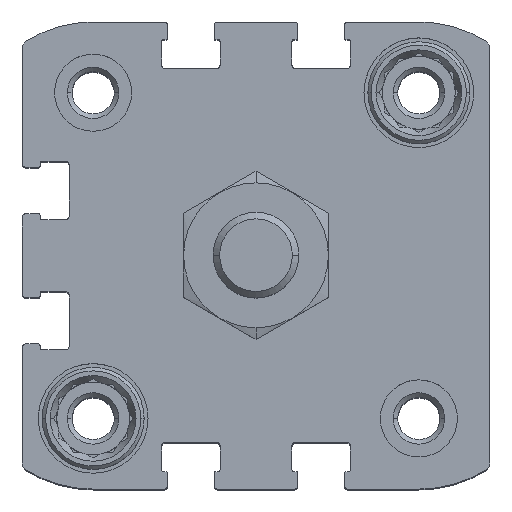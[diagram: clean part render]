
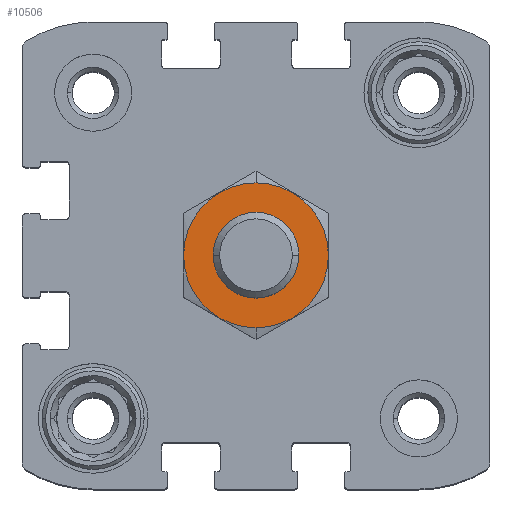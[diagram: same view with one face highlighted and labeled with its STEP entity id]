
A CAD part, top view. The second image highlights one B-rep face of the part: STEP entity #10506.
In plain terms, the highlighted planar face has unit normal (0, 0, 1).
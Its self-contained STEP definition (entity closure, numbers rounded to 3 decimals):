
#336 = CIRCLE ( 'NONE', #7937, 5. ) ;
#683 = DIRECTION ( 'NONE',  ( 0., 0., -1. ) ) ;
#848 = DIRECTION ( 'NONE',  ( 0., 1., 0. ) ) ;
#1328 = VERTEX_POINT ( 'NONE', #7141 ) ;
#2072 = VERTEX_POINT ( 'NONE', #9395 ) ;
#2104 = CIRCLE ( 'NONE', #8563, 5. ) ;
#2913 = ORIENTED_EDGE ( 'NONE', *, *, #8864, .T. ) ;
#3046 = DIRECTION ( 'NONE',  ( 0., 1., 0. ) ) ;
#3553 = EDGE_CURVE ( 'NONE', #2072, #1328, #8396, .T. ) ;
#4359 = ORIENTED_EDGE ( 'NONE', *, *, #5112, .T. ) ;
#4721 = PLANE ( 'NONE',  #10392 ) ;
#4888 = CARTESIAN_POINT ( 'NONE',  ( 0., 0., 15.8 ) ) ;
#5027 = EDGE_LOOP ( 'NONE', ( #5458, #13303 ) ) ;
#5112 = EDGE_CURVE ( 'NONE', #16714, #6899, #336, .T. ) ;
#5458 = ORIENTED_EDGE ( 'NONE', *, *, #13475, .F. ) ;
#6140 = CARTESIAN_POINT ( 'NONE',  ( 0., 0., 15.8 ) ) ;
#6240 = DIRECTION ( 'NONE',  ( 0., 0., -1. ) ) ;
#6274 = CARTESIAN_POINT ( 'NONE',  ( 0., 5., 15.8 ) ) ;
#6899 = VERTEX_POINT ( 'NONE', #6274 ) ;
#7141 = CARTESIAN_POINT ( 'NONE',  ( 0., 8.45, 15.8 ) ) ;
#7937 = AXIS2_PLACEMENT_3D ( 'NONE', #4888, #11722, #848 ) ;
#8370 = CARTESIAN_POINT ( 'NONE',  ( 0., -5., 15.8 ) ) ;
#8396 = CIRCLE ( 'NONE', #12039, 8.45 ) ;
#8563 = AXIS2_PLACEMENT_3D ( 'NONE', #12815, #6240, #15787 ) ;
#8676 = DIRECTION ( 'NONE',  ( 0., 0., -1. ) ) ;
#8864 = EDGE_CURVE ( 'NONE', #6899, #16714, #2104, .T. ) ;
#9395 = CARTESIAN_POINT ( 'NONE',  ( 0., -8.45, 15.8 ) ) ;
#10058 = CIRCLE ( 'NONE', #12568, 8.45 ) ;
#10392 = AXIS2_PLACEMENT_3D ( 'NONE', #12534, #683, #11394 ) ;
#10506 = ADVANCED_FACE ( 'NONE', ( #15430, #15254 ), #4721, .F. ) ;
#11394 = DIRECTION ( 'NONE',  ( 0., 1., 0. ) ) ;
#11722 = DIRECTION ( 'NONE',  ( 0., 0., -1. ) ) ;
#12039 = AXIS2_PLACEMENT_3D ( 'NONE', #6140, #15860, #16847 ) ;
#12534 = CARTESIAN_POINT ( 'NONE',  ( 0., 0., 15.8 ) ) ;
#12568 = AXIS2_PLACEMENT_3D ( 'NONE', #15335, #8676, #3046 ) ;
#12815 = CARTESIAN_POINT ( 'NONE',  ( 0., 0., 15.8 ) ) ;
#13303 = ORIENTED_EDGE ( 'NONE', *, *, #3553, .F. ) ;
#13475 = EDGE_CURVE ( 'NONE', #1328, #2072, #10058, .T. ) ;
#15254 = FACE_BOUND ( 'NONE', #17332, .T. ) ;
#15335 = CARTESIAN_POINT ( 'NONE',  ( 0., 0., 15.8 ) ) ;
#15430 = FACE_OUTER_BOUND ( 'NONE', #5027, .T. ) ;
#15787 = DIRECTION ( 'NONE',  ( 0., 1., 0. ) ) ;
#15860 = DIRECTION ( 'NONE',  ( 0., 0., -1. ) ) ;
#16714 = VERTEX_POINT ( 'NONE', #8370 ) ;
#16847 = DIRECTION ( 'NONE',  ( 0., 1., 0. ) ) ;
#17332 = EDGE_LOOP ( 'NONE', ( #4359, #2913 ) ) ;
